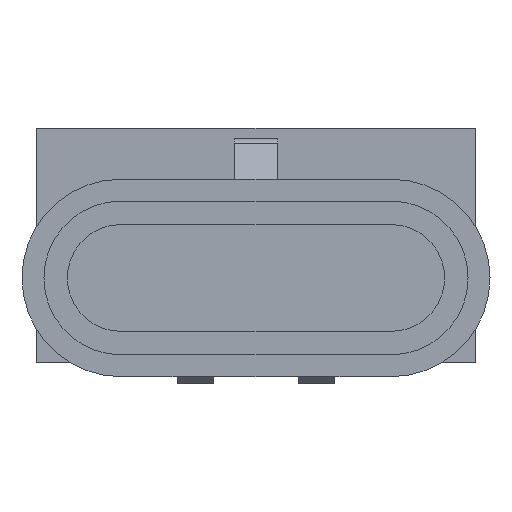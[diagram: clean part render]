
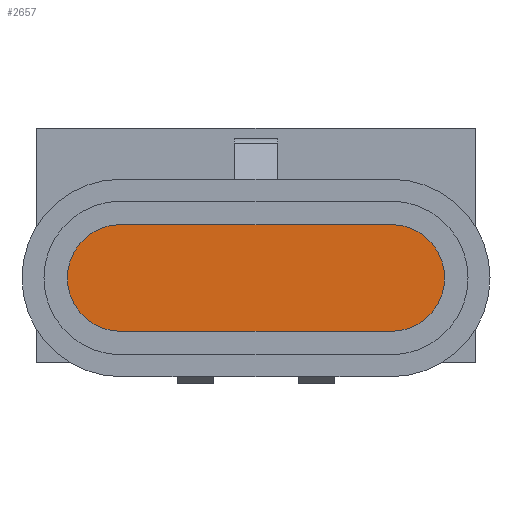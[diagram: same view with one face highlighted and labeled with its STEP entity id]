
A CAD part, front view. The second image highlights one B-rep face of the part: STEP entity #2657.
In plain terms, the highlighted planar face has unit normal (0, -1, 0) as drawn and (0, 0, -1) by its records, which use the part's own axes.
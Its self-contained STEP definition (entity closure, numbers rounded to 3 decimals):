
#154=LINE('',#4183,#380);
#158=LINE('',#4195,#384);
#380=VECTOR('',#3377,18.5);
#384=VECTOR('',#3389,18.5);
#533=PLANE('',#2874);
#687=FACE_OUTER_BOUND('',#857,.T.);
#857=EDGE_LOOP('',(#2012,#2013,#2014,#2015));
#1027=CIRCLE('',#2869,3.65);
#1029=CIRCLE('',#2873,3.65);
#1219=VERTEX_POINT('',#4180);
#1220=VERTEX_POINT('',#4182);
#1222=VERTEX_POINT('',#4188);
#1224=VERTEX_POINT('',#4194);
#1509=EDGE_CURVE('',#1220,#1219,#154,.T.);
#1512=EDGE_CURVE('',#1222,#1220,#1027,.T.);
#1515=EDGE_CURVE('',#1224,#1222,#158,.T.);
#1518=EDGE_CURVE('',#1219,#1224,#1029,.T.);
#2012=ORIENTED_EDGE('',*,*,#1512,.T.);
#2013=ORIENTED_EDGE('',*,*,#1509,.T.);
#2014=ORIENTED_EDGE('',*,*,#1518,.T.);
#2015=ORIENTED_EDGE('',*,*,#1515,.T.);
#2657=ADVANCED_FACE('',(#687),#533,.F.);
#2869=AXIS2_PLACEMENT_3D('',#4189,#3383,#3384);
#2873=AXIS2_PLACEMENT_3D('',#4199,#3395,#3396);
#2874=AXIS2_PLACEMENT_3D('',#4200,#3397,#3398);
#3377=DIRECTION('',(1.,0.,0.));
#3383=DIRECTION('center_axis',(0.,0.,-1.));
#3384=DIRECTION('ref_axis',(1.,0.,0.));
#3389=DIRECTION('',(-1.,0.,0.));
#3395=DIRECTION('center_axis',(0.,0.,-1.));
#3396=DIRECTION('ref_axis',(1.,0.,0.));
#3397=DIRECTION('center_axis',(0.,0.,1.));
#3398=DIRECTION('ref_axis',(1.,0.,0.));
#4180=CARTESIAN_POINT('',(9.25,-2.1,-60.5));
#4182=CARTESIAN_POINT('',(-9.25,-2.1,-60.5));
#4183=CARTESIAN_POINT('',(-9.25,-2.1,-60.5));
#4188=CARTESIAN_POINT('',(-9.25,-9.4,-60.5));
#4189=CARTESIAN_POINT('Origin',(-9.25,-5.75,-60.5));
#4194=CARTESIAN_POINT('',(9.25,-9.4,-60.5));
#4195=CARTESIAN_POINT('',(9.25,-9.4,-60.5));
#4199=CARTESIAN_POINT('Origin',(9.25,-5.75,-60.5));
#4200=CARTESIAN_POINT('Origin',(-9.25,-5.75,-60.5));
